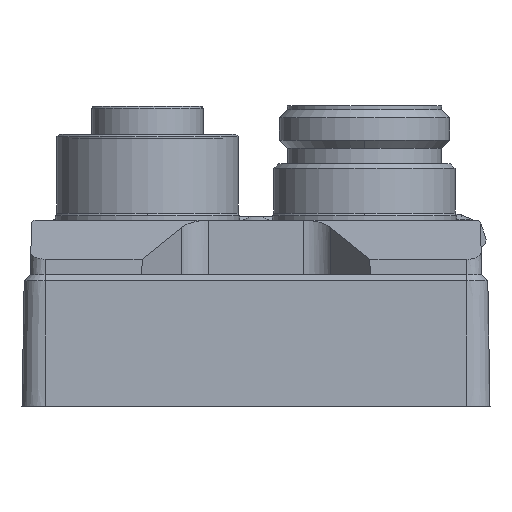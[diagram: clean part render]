
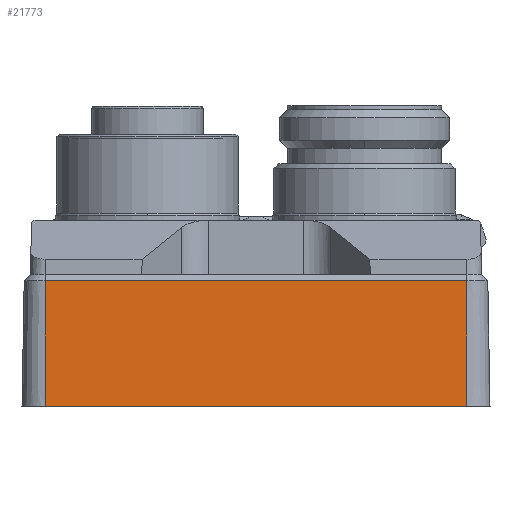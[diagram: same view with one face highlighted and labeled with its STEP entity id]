
A CAD part, front view. The second image highlights one B-rep face of the part: STEP entity #21773.
In plain terms, the highlighted planar face has unit normal (0, -1, 0.018).
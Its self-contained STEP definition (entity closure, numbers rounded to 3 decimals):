
#776 = EDGE_CURVE ( 'NONE', #22321, #15051, #11260, .T. ) ;
#2586 = CARTESIAN_POINT ( 'NONE',  ( -27.208, 0., 0. ) ) ;
#2852 = ORIENTED_EDGE ( 'NONE', *, *, #776, .F. ) ;
#3078 = EDGE_LOOP ( 'NONE', ( #14283, #2852, #9612, #9610 ) ) ;
#3754 = LINE ( 'NONE', #17357, #12159 ) ;
#5603 = CARTESIAN_POINT ( 'NONE',  ( -27.208, 0.283, 16.2 ) ) ;
#5844 = DIRECTION ( 'NONE',  ( -1., 0., 0. ) ) ;
#7404 = VERTEX_POINT ( 'NONE', #2586 ) ;
#8606 = EDGE_CURVE ( 'NONE', #7404, #15051, #3754, .T. ) ;
#8811 = PLANE ( 'NONE',  #26097 ) ;
#9534 = CARTESIAN_POINT ( 'NONE',  ( -27.208, 0., 0. ) ) ;
#9610 = ORIENTED_EDGE ( 'NONE', *, *, #16378, .T. ) ;
#9612 = ORIENTED_EDGE ( 'NONE', *, *, #21658, .T. ) ;
#9929 = VERTEX_POINT ( 'NONE', #5603 ) ;
#10430 = LINE ( 'NONE', #9534, #27504 ) ;
#11148 = DIRECTION ( 'NONE',  ( 0., -0.017, -1. ) ) ;
#11260 = LINE ( 'NONE', #22829, #17403 ) ;
#12159 = VECTOR ( 'NONE', #17419, 1000. ) ;
#13632 = LINE ( 'NONE', #26694, #19026 ) ;
#13692 = CARTESIAN_POINT ( 'NONE',  ( 27.208, 0., 0. ) ) ;
#14113 = CARTESIAN_POINT ( 'NONE',  ( 27.208, 0.283, 16.2 ) ) ;
#14283 = ORIENTED_EDGE ( 'NONE', *, *, #8606, .T. ) ;
#15051 = VERTEX_POINT ( 'NONE', #13692 ) ;
#15731 = CARTESIAN_POINT ( 'NONE',  ( 35., 0., 0. ) ) ;
#16378 = EDGE_CURVE ( 'NONE', #9929, #7404, #10430, .T. ) ;
#17357 = CARTESIAN_POINT ( 'NONE',  ( 30.208, 0., 0. ) ) ;
#17403 = VECTOR ( 'NONE', #22628, 1000. ) ;
#17419 = DIRECTION ( 'NONE',  ( 1., 0., 0. ) ) ;
#19026 = VECTOR ( 'NONE', #5844, 1000. ) ;
#21658 = EDGE_CURVE ( 'NONE', #22321, #9929, #13632, .T. ) ;
#21773 = ADVANCED_FACE ( 'NONE', ( #23011 ), #8811, .T. ) ;
#22321 = VERTEX_POINT ( 'NONE', #14113 ) ;
#22628 = DIRECTION ( 'NONE',  ( 0., -0.017, -1. ) ) ;
#22829 = CARTESIAN_POINT ( 'NONE',  ( 27.208, -8710.077, -499000. ) ) ;
#23011 = FACE_OUTER_BOUND ( 'NONE', #3078, .T. ) ;
#23417 = DIRECTION ( 'NONE',  ( 0., -0.017, -1. ) ) ;
#25049 = DIRECTION ( 'NONE',  ( 0., -1., 0.017 ) ) ;
#26097 = AXIS2_PLACEMENT_3D ( 'NONE', #15731, #25049, #11148 ) ;
#26694 = CARTESIAN_POINT ( 'NONE',  ( 35., 0.283, 16.2 ) ) ;
#27504 = VECTOR ( 'NONE', #23417, 1000. ) ;
